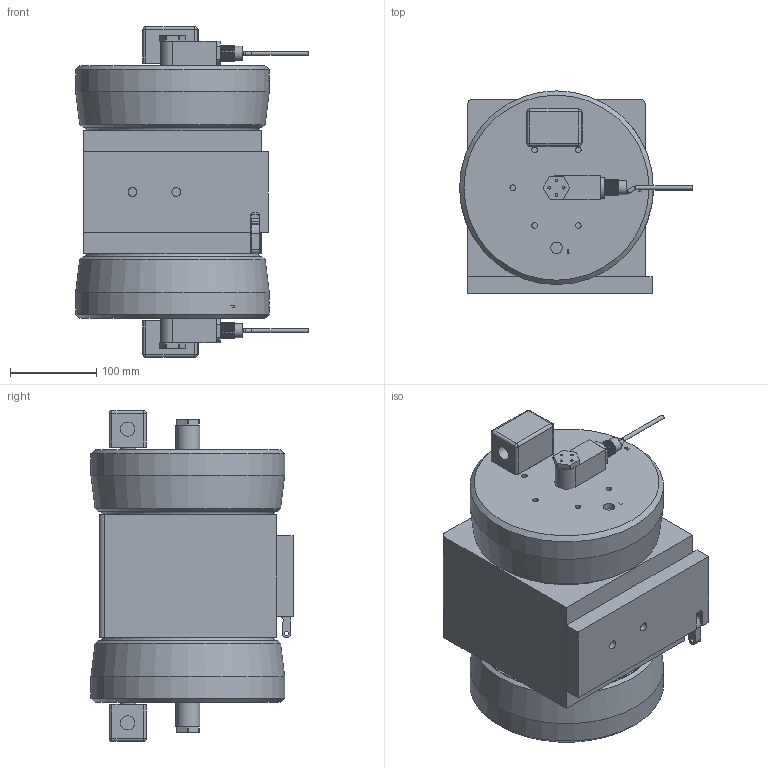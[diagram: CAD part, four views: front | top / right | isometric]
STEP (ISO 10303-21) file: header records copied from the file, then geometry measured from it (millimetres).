
FILE_DESCRIPTION (( 'STEP AP214' ), '1' );
FILE_NAME ('PXH140_solid model.STEP', '2013-07-24T19:48:23', ( '' ), ( '' ), 'SwSTEP 2.0', 'SolidWorks 2012', '' );
FILE_SCHEMA (( 'AUTOMOTIVE_DESIGN' ));
Length unit declared in the file: inch
Products named in the file (1): PXH140_solid model
Bounding box: 270.59 x 234.84 x 384.38 mm (x, y, z)
Volume: 12471061.9 mm3; surface area: 437945 mm2
Topology: 1 solids, 1 shells, 1182 faces, 2918 edges, 1896 vertices
Faces by surface type: plane 824, cylinder 149, bspline 95, cone 94, torus 12, sphere 8
Full cylindrical faces by diameter (mm): 3.175 x8, 3.251 x32, 4.445 x7, 4.902 x1, 6.477 x10, 10.312 x2, 13.183 x2, 16.408 x2, 16.716 x2, 18.25 x2, 22.25 x2, 31.877 x1, 33.401 x1, 35.35 x2, 38.786 x2, 62.332 x1, 199.009 x2, 199.771 x2, 225.196 x2
Entity records: 39962 total; most frequent: CARTESIAN_POINT 11218, ORIENTED_EDGE 5442, DIRECTION 5150, EDGE_CURVE 2721, VECTOR 2074, LINE 2074, VERTEX_POINT 1882, AXIS2_PLACEMENT_3D 1538
